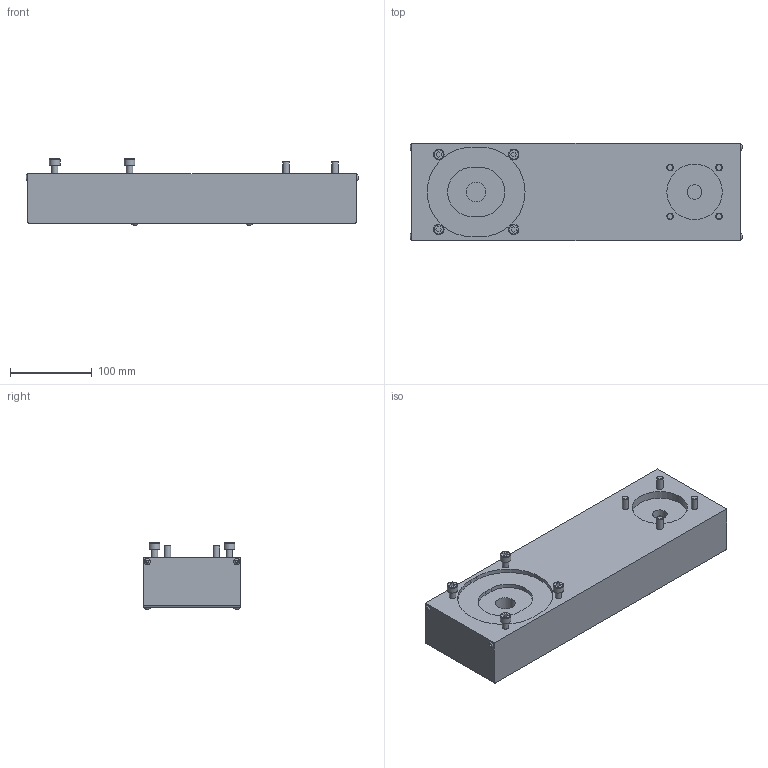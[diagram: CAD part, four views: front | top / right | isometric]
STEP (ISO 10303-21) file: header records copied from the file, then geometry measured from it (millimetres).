
FILE_DESCRIPTION(/* description */ (''),/* implementation_level */ '2;1');
FILE_NAME(/* name */ 'O:\LINEARNE ENOTE\STRANSKI POGON CTV\CTV 200 MTV 110\DUMMY MODELI\izvoz\MSD CTV 200 T1 1 126 X 126.stp',/* time_stamp */ '2019-04-24T08:21:21+02:00',/* author */ ('Hypex'),/* organization */ ('Hypex'),/* preprocessor_version */ 'ST-DEVELOPER v17',/* originating_system */ 'Autodesk Inventor 2018',/* authorisation */ '');
FILE_SCHEMA (('AUTOMOTIVE_DESIGN { 1 0 10303 214 3 1 1 }'));
Length unit declared in the file: millimetre
Products named in the file (1): MSD CTV 200 T1 1 126 X 126
Bounding box: 407.4 x 120 x 81.2 mm (x, y, z)
Volume: 2819637.3 mm3; surface area: 176580.1 mm2
Topology: 1 solids, 1 shells, 164 faces, 373 edges, 248 vertices
Faces by surface type: plane 119, cylinder 29, bspline 8, torus 4, cone 4
Full cylindrical faces by diameter (mm): 7.6 x8, 8 x8, 13 x4, 18 x1, 24 x1, 68 x1
Entity records: 4816 total; most frequent: CARTESIAN_POINT 994, DIRECTION 787, ORIENTED_EDGE 746, EDGE_CURVE 373, LINE 273, VECTOR 273, AXIS2_PLACEMENT_3D 257, VERTEX_POINT 248
